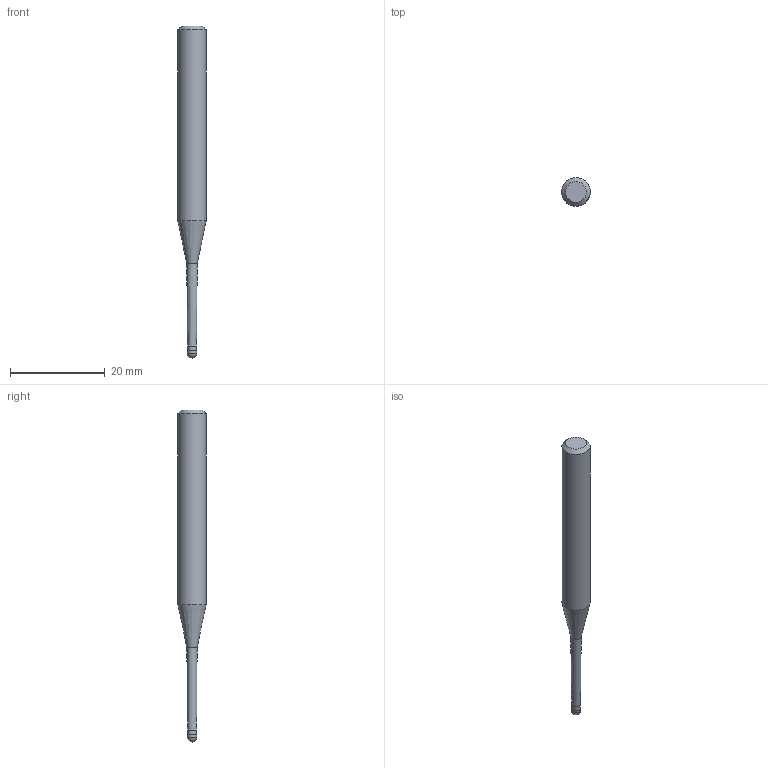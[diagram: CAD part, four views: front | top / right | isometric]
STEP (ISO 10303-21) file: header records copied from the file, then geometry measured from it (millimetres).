
FILE_DESCRIPTION((''),'2;1');
FILE_NAME('C:\Users\nsx150\AppData\Local\Temp\Mastercam 2021\E0ENTZRV18\TEMP.step','2021-09-02T09:56:41',(''),(''),'STEP Write','Mastercam 2021 ... CNC Software, Inc.','');
FILE_SCHEMA(('AUTOMOTIVE_DESIGN'));
Length unit declared in the file: millimetre
Products named in the file (1): None
Bounding box: 6 x 6 x 70 mm (x, y, z)
Volume: 1345.6 mm3; surface area: 1043.5 mm2
Topology: 2 solids, 2 shells, 10 faces, 16 edges, 9 vertices
Faces by surface type: plane 3, cylinder 3, cone 3, sphere 1
Full cylindrical faces by diameter (mm): 1.875 x1, 2 x1, 6 x1
Entity records: 232 total; most frequent: DIRECTION 40, CARTESIAN_POINT 28, AXIS2_PLACEMENT_3D 20, ORIENTED_EDGE 16, EDGE_LOOP 16, STYLED_ITEM 13, ADVANCED_FACE 10, FACE_BOUND 9
